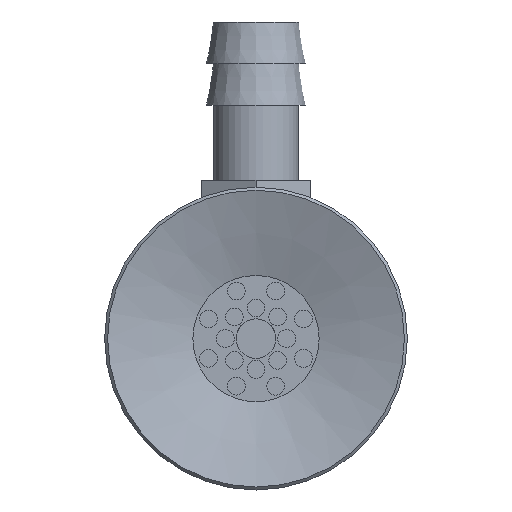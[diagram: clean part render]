
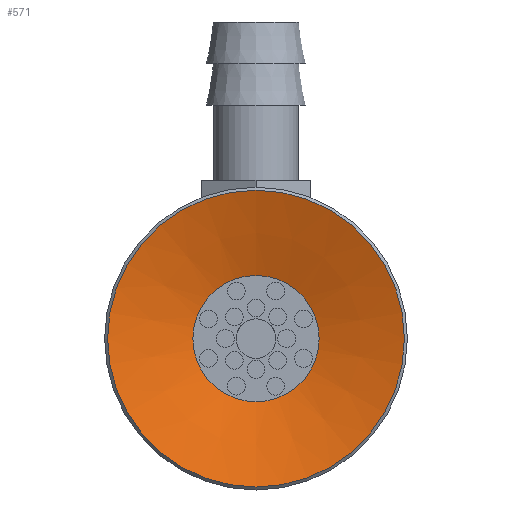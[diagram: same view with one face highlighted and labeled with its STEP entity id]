
A CAD part, front view. The second image highlights one B-rep face of the part: STEP entity #571.
In plain terms, the highlighted conical face has half-angle 72 degrees and reference radius 7.5 mm.
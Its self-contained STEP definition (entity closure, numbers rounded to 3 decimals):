
#571=ADVANCED_FACE('',(#902,#903),#904,.F.);
#902=FACE_BOUND('',#1330,.T.);
#903=FACE_OUTER_BOUND('',#1331,.T.);
#904=CONICAL_SURFACE('',#1332,7.5,1.257);
#1330=EDGE_LOOP('',(#2265));
#1331=EDGE_LOOP('',(#2266));
#1332=AXIS2_PLACEMENT_3D('',#2267,#2268,#2269);
#2265=ORIENTED_EDGE('',*,*,#2731,.T.);
#2266=ORIENTED_EDGE('',*,*,#2732,.F.);
#2267=CARTESIAN_POINT('',(0.0,0.,0.));
#2268=DIRECTION('',(0.0,0.,-1.0));
#2269=DIRECTION('',(0.0,1.0,0.));
#2731=EDGE_CURVE('',#3153,#3153,#3154,.T.);
#2732=EDGE_CURVE('',#3155,#3155,#3156,.T.);
#3153=VERTEX_POINT('',#4065);
#3154=CIRCLE('',#4066,3.191);
#3155=VERTEX_POINT('',#4067);
#3156=CIRCLE('',#4068,7.5);
#4065=CARTESIAN_POINT('',(0.0,-3.191,1.4));
#4066=AXIS2_PLACEMENT_3D('',#4474,#4475,#4476);
#4067=CARTESIAN_POINT('',(0.0,-7.5,0.));
#4068=AXIS2_PLACEMENT_3D('',#4477,#4478,#4479);
#4474=CARTESIAN_POINT('',(0.0,0.,1.4));
#4475=DIRECTION('',(0.0,0.,1.0));
#4476=DIRECTION('',(0.0,-1.0,0.));
#4477=CARTESIAN_POINT('',(0.0,0.,0.));
#4478=DIRECTION('',(0.0,0.,1.0));
#4479=DIRECTION('',(0.0,-1.0,0.));
